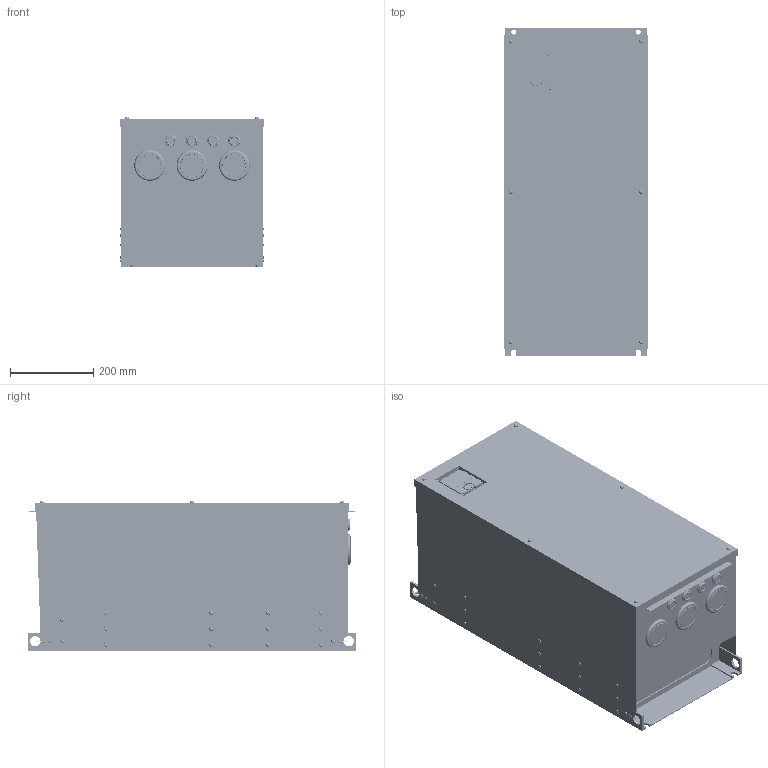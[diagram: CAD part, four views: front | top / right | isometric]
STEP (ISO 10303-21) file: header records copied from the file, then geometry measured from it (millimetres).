
FILE_DESCRIPTION((''),'2;1');
FILE_NAME('3D-INV-A8-09_03_ASM','2015-03-12T',('KF22000'),(''),'PRO/ENGINEER BY PARAMETRIC TECHNOLOGY CORPORATION, 2014090','PRO/ENGINEER BY PARAMETRIC TECHNOLOGY CORPORATION, 2014090','');
FILE_SCHEMA(('CONFIG_CONTROL_DESIGN'));
Products named in the file (28): 3D-WAKU-A8-09_03-01; 3D-WAKU-A8-09_03_ASM; 3D-FAN-3610VL-05W-B59-BQ2; 3D-SW-M4X32-A8; 3D-FAN_ASSY-A8-09_03_ASM; 3D-COVER_FAN-A8-09_03; 3D-COVER_FAN_ASSY-A8-09_03_ASM; 3D-FAN-2410ML-05W-B69-BQE; 3D-FAN_BKT_CA-A8-09_03; 3D-SWPWPNAM4X10_S902N034-A8; 3D-FAN_CA_ASSY-A8-09_03_ASM; 3D-GROM_C-30-SG-22A-A8-09_02; 3D-GROM_ASSY-22A-A8-09_03_ASM; 3D-GROM_C-30-SG-64A-EP-UL; 3D-GROM_ASSY-64A-A8-09_03_ASM; 3D-DOT_TE_TAN-A8-09_03; 3D-TE_BOLT-A8-09_03; 3D-TE_BOLT_ASSY-A8-09_03_ASM; 3D-TE_COVER-A8-09_03; 3D-M8X16; 3D-TA-A8; 3D-A8-TA_ASM; 3D-COVER_ASSY-A8-09_03-01; 3D-COVER_ASSY-A8-09_03-01_ASM; 3D-DU-IP55-A8; 3D-TORX_ASSY-M5-L20; 3D-TORX_ASSY-M5-L20_ASM; 3D-INV-A8-09_03_ASM
Assembly tree (53 placements, depth 3):
  3D-INV-A8-09_03_ASM
    3D-WAKU-A8-09_03_ASM
      3D-WAKU-A8-09_03-01
    3D-FAN_ASSY-A8-09_03_ASM
      3D-FAN-3610VL-05W-B59-BQ2  x2
      3D-SW-M4X32-A8  x2
    3D-COVER_FAN_ASSY-A8-09_03_ASM
      3D-COVER_FAN-A8-09_03
      3D-SW-M4X32-A8  x2
    3D-FAN_CA_ASSY-A8-09_03_ASM
      3D-FAN-2410ML-05W-B69-BQE
      3D-FAN_BKT_CA-A8-09_03
      3D-SW-M4X32-A8  x2
      3D-SWPWPNAM4X10_S902N034-A8  x2
    3D-GROM_ASSY-22A-A8-09_03_ASM
      3D-GROM_C-30-SG-22A-A8-09_02  x4
    3D-GROM_ASSY-64A-A8-09_03_ASM
      3D-GROM_C-30-SG-64A-EP-UL  x3
    3D-DOT_TE_TAN-A8-09_03
    3D-TE_BOLT_ASSY-A8-09_03_ASM
      3D-TE_BOLT-A8-09_03  x9
    3D-TE_COVER-A8-09_03
    3D-M8X16  x2
    3D-A8-TA_ASM
      3D-TA-A8
    3D-COVER_ASSY-A8-09_03-01_ASM
      3D-COVER_ASSY-A8-09_03-01
    3D-DU-IP55-A8
    3D-TORX_ASSY-M5-L20_ASM  x6
      3D-TORX_ASSY-M5-L20
Bounding box: 345 x 790 x 362.25 mm (x, y, z)
Volume: 61559930 mm3; surface area: 2975452.7 mm2
Topology: 61 solids, 167 shells, 8074 faces, 21168 edges, 13827 vertices
Faces by surface type: plane 5348, cylinder 1482, extrusion 606, torus 240, bspline 192, cone 122, sphere 84
Entity records: 333172 total; most frequent: CARTESIAN_POINT 147737, ORIENTED_EDGE 39436, DIRECTION 35372, EDGE_CURVE 19718, VECTOR 15564, LINE 14958, VERTEX_POINT 12949, AXIS2_PLACEMENT_3D 9904
